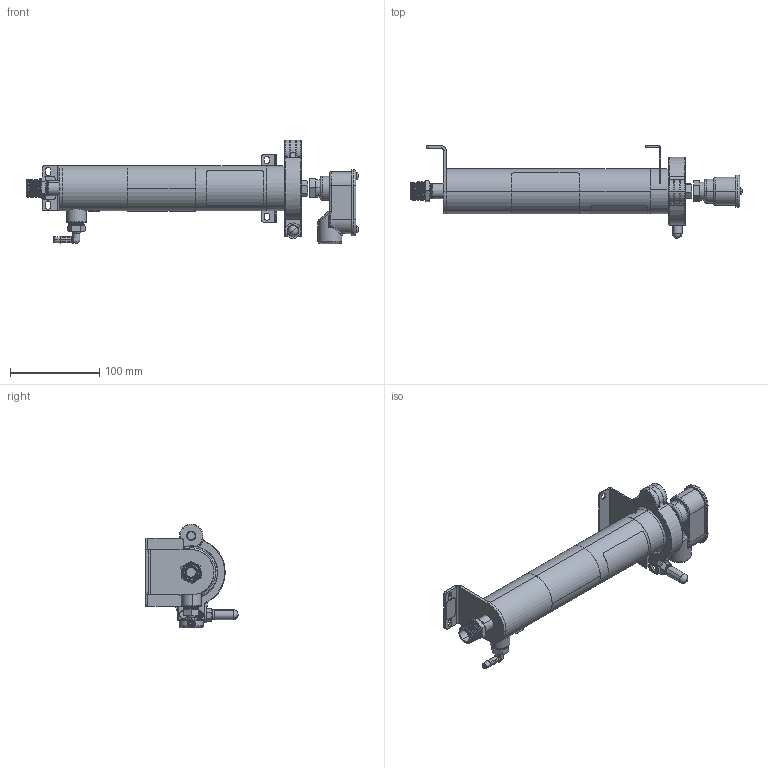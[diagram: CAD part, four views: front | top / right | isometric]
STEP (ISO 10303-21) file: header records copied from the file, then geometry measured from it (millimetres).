
FILE_DESCRIPTION (( 'STEP AP214' ), '1' );
FILE_NAME ('9-1140-XX.STEP', '2018-07-25T15:11:56', ( '' ), ( '' ), 'SwSTEP 2.0', 'SolidWorks 2017', '' );
FILE_SCHEMA (( 'AUTOMOTIVE_DESIGN' ));
Length unit declared in the file: inch
Products named in the file (1): 9-1140-XX
Bounding box: 372.12 x 103.4 x 116.01 mm (x, y, z)
Surface area: 156163.8 mm2 (no closed solid volume)
Topology: 0 solids, 28 shells, 613 faces, 1774 edges, 1182 vertices
Faces by surface type: cylinder 200, cone 175, plane 148, torus 54, bspline 32, sphere 4
Entity records: 47972 total; most frequent: CARTESIAN_POINT 24859, ORIENTED_EDGE 3290, DIRECTION 2839, EDGE_CURVE 1768, VERTEX_POINT 1182, AXIS2_PLACEMENT_3D 1123, EDGE_LOOP 665, B_SPLINE_CURVE_WITH_KNOTS 620
